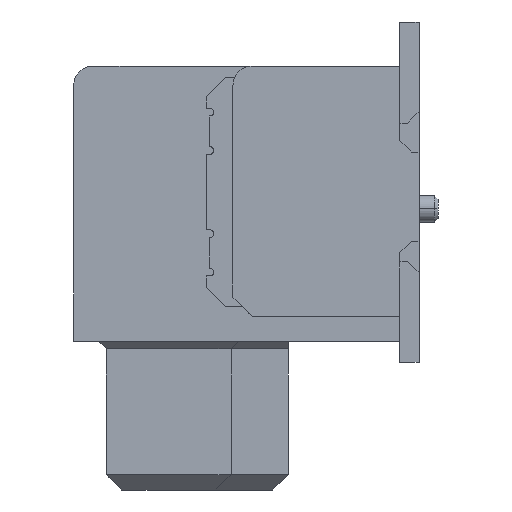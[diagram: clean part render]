
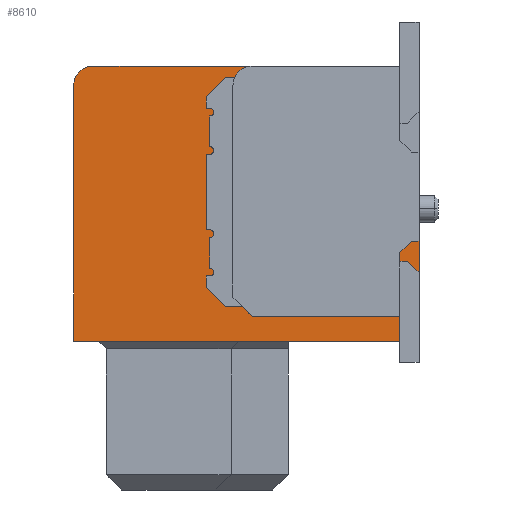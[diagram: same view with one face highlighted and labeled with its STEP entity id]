
A CAD part, left-side view. The second image highlights one B-rep face of the part: STEP entity #8610.
In plain terms, the highlighted planar face has unit normal (-1, 0, 0) as drawn and (1, 0, 0) by its records, which use the part's own axes.
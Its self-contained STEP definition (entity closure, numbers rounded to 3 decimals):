
#200=CARTESIAN_POINT('',(15.92,9.,7.17));
#210=VERTEX_POINT('',#200);
#240=CARTESIAN_POINT('',(15.92,0.,7.17));
#250=DIRECTION('',(0.,1.,0.));
#260=VECTOR('',#250,1.);
#270=LINE('',#240,#260);
#280=CARTESIAN_POINT('',(15.92,0.,7.17));
#290=VERTEX_POINT('',#280);
#300=EDGE_CURVE('',#290,#210,#270,.T.);
#7340=CARTESIAN_POINT('',(15.92,10.87,0.));
#7350=DIRECTION('',(0.,-0.707,0.707));
#7360=VECTOR('',#7350,1.);
#7370=LINE('',#7340,#7360);
#7380=CARTESIAN_POINT('',(15.92,4.85,6.02));
#7390=VERTEX_POINT('',#7380);
#7400=CARTESIAN_POINT('',(15.92,4.35,6.52));
#7410=VERTEX_POINT('',#7400);
#7420=EDGE_CURVE('',#7390,#7410,#7370,.T.);
#7740=CARTESIAN_POINT('',(15.92,2.42,3.585));
#7750=DIRECTION('',(1.,-0.,0.));
#7760=DIRECTION('',(0.,0.,-1.));
#7770=AXIS2_PLACEMENT_3D('',#7740,#7750,#7760);
#7780=PLANE('',#7770);
#7790=ORIENTED_EDGE('',*,*,#300,.F.);
#7800=CARTESIAN_POINT('',(15.92,9.,0.));
#7810=DIRECTION('',(0.,0.,-1.));
#7820=VECTOR('',#7810,1.);
#7830=LINE('',#7800,#7820);
#7840=CARTESIAN_POINT('',(15.92,9.,0.5));
#7850=VERTEX_POINT('',#7840);
#7860=EDGE_CURVE('',#210,#7850,#7830,.T.);
#7870=ORIENTED_EDGE('',*,*,#7860,.F.);
#7880=CARTESIAN_POINT('',(15.92,8.5,0.5));
#7890=DIRECTION('',(-1.,0.,0.));
#7900=DIRECTION('',(0.,1.,0.));
#7910=AXIS2_PLACEMENT_3D('',#7880,#7890,#7900);
#7920=CIRCLE('',#7910,0.5);
#7930=CARTESIAN_POINT('',(15.92,8.5,0.));
#7940=VERTEX_POINT('',#7930);
#7950=EDGE_CURVE('',#7850,#7940,#7920,.T.);
#7960=ORIENTED_EDGE('',*,*,#7950,.F.);
#7970=CARTESIAN_POINT('',(15.92,0.,0.));
#7980=DIRECTION('',(0.,1.,0.));
#7990=VECTOR('',#7980,1.);
#8000=LINE('',#7970,#7990);
#8010=CARTESIAN_POINT('',(15.92,4.35,0.));
#8020=VERTEX_POINT('',#8010);
#8030=EDGE_CURVE('',#8020,#7940,#8000,.T.);
#8040=ORIENTED_EDGE('',*,*,#8030,.T.);
#8050=CARTESIAN_POINT('',(15.92,4.35,0.5));
#8060=DIRECTION('',(1.,0.,0.));
#8070=DIRECTION('',(0.,-1.,0.));
#8080=AXIS2_PLACEMENT_3D('',#8050,#8060,#8070);
#8090=CIRCLE('',#8080,0.5);
#8100=CARTESIAN_POINT('',(15.92,4.85,0.5));
#8110=VERTEX_POINT('',#8100);
#8120=EDGE_CURVE('',#8020,#8110,#8090,.T.);
#8130=ORIENTED_EDGE('',*,*,#8120,.F.);
#8140=CARTESIAN_POINT('',(15.92,4.85,0.));
#8150=DIRECTION('',(0.,0.,1.));
#8160=VECTOR('',#8150,1.);
#8170=LINE('',#8140,#8160);
#8180=EDGE_CURVE('',#8110,#7390,#8170,.T.);
#8190=ORIENTED_EDGE('',*,*,#8180,.F.);
#8200=ORIENTED_EDGE('',*,*,#7420,.F.);
#8210=CARTESIAN_POINT('',(15.92,0.,6.52));
#8220=DIRECTION('',(0.,1.,0.));
#8230=VECTOR('',#8220,1.);
#8240=LINE('',#8210,#8230);
#8250=CARTESIAN_POINT('',(15.92,0.5,6.52));
#8260=VERTEX_POINT('',#8250);
#8270=EDGE_CURVE('',#8260,#7410,#8240,.T.);
#8280=ORIENTED_EDGE('',*,*,#8270,.T.);
#8290=CARTESIAN_POINT('',(15.92,0.5,4.57));
#8300=DIRECTION('',(0.,0.,1.));
#8310=VECTOR('',#8300,1.);
#8320=LINE('',#8290,#8310);
#8330=CARTESIAN_POINT('',(15.92,0.5,4.87));
#8340=VERTEX_POINT('',#8330);
#8350=EDGE_CURVE('',#8340,#8260,#8320,.T.);
#8360=ORIENTED_EDGE('',*,*,#8350,.T.);
#8370=CARTESIAN_POINT('',(15.92,0.,4.37));
#8380=DIRECTION('',(0.,0.707,0.707));
#8390=VECTOR('',#8380,1.);
#8400=LINE('',#8370,#8390);
#8410=CARTESIAN_POINT('',(15.92,0.2,4.57));
#8420=VERTEX_POINT('',#8410);
#8430=EDGE_CURVE('',#8420,#8340,#8400,.T.);
#8440=ORIENTED_EDGE('',*,*,#8430,.T.);
#8450=CARTESIAN_POINT('',(15.92,0.,4.57));
#8460=DIRECTION('',(0.,1.,0.));
#8470=VECTOR('',#8460,1.);
#8480=LINE('',#8450,#8470);
#8490=CARTESIAN_POINT('',(15.92,0.,4.57));
#8500=VERTEX_POINT('',#8490);
#8510=EDGE_CURVE('',#8500,#8420,#8480,.T.);
#8520=ORIENTED_EDGE('',*,*,#8510,.T.);
#8530=CARTESIAN_POINT('',(15.92,0.,0.));
#8540=DIRECTION('',(0.,0.,1.));
#8550=VECTOR('',#8540,1.);
#8560=LINE('',#8530,#8550);
#8570=EDGE_CURVE('',#8500,#290,#8560,.T.);
#8580=ORIENTED_EDGE('',*,*,#8570,.F.);
#8590=EDGE_LOOP('',(#8580,#8520,#8440,#8360,#8280,#8200,#8190,#8130,
#8040,#7960,#7870,#7790));
#8600=FACE_OUTER_BOUND('',#8590,.T.);
#8610=ADVANCED_FACE('',(#8600),#7780,.T.);
